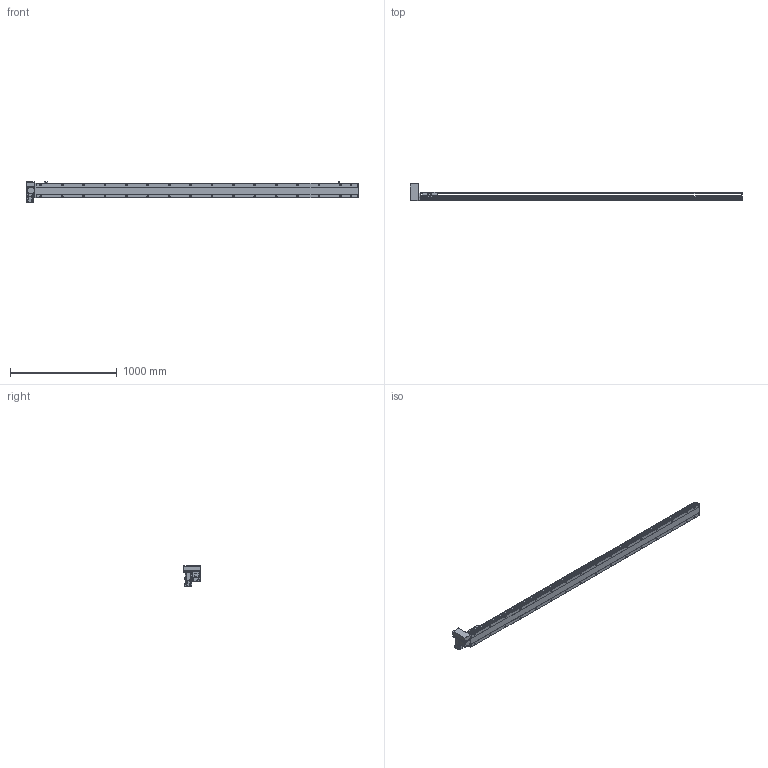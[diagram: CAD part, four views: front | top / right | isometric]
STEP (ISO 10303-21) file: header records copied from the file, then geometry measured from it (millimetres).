
FILE_DESCRIPTION( ( 'STEP AP214' ), '1' );
FILE_NAME( 'x:/temp/worker_3/temp/exporttempdir_5796_27_joOHi/format_0/PBS140-P40-S2750-RU-T40-C1-N(0).stp', '2022-06-07T05:57:13', ( 'License CC BY-ND 4.0' ), ( 'CADENAS' ), ' ', 'PARTsolutions', ' ' );
FILE_SCHEMA( ( 'AUTOMOTIVE_DESIGN { 1 0 10303 214 1 1 1 1 }' ) );
Length unit declared in the file: millimetre
Products named in the file (7): PBS140-P40-S2750-RU-T40-C1-N(0); _PBS140-S2750()_body; _PBS140T-RU_motors; _T40-p1; _PBS140_sliser; _PBS140_plant; _PBS140_sensor
Assembly tree (8 placements, depth 2):
  PBS140-P40-S2750-RU-T40-C1-N(0)
    _PBS140-S2750()_body
    _PBS140T-RU_motors
    _T40-p1
    _PBS140_sliser
    _PBS140_plant
    _PBS140_sensor  x3
Bounding box: 3104 x 162.5 x 189.7 mm (x, y, z)
Volume: 13847803.3 mm3; surface area: 2353684.4 mm2
Topology: 8 solids, 8 shells, 1203 faces, 3156 edges, 2061 vertices
Faces by surface type: plane 740, cylinder 395, cone 58, sphere 8, torus 2
Full cylindrical faces by diameter (mm): 3.242 x4, 4 x2, 4.134 x4, 4.4 x8, 4.5 x2, 4.8 x4, 4.917 x40, 5.5 x7, 6 x2, 7 x34, 7.5 x8, 8 x12, 8.5 x4, 10.5 x32, 14 x1, 30 x2, 50 x2
Entity records: 44425 total; most frequent: CARTESIAN_POINT 7595, DIRECTION 5757, ORIENTED_EDGE 5392, EDGE_CURVE 2696, AXIS2_PLACEMENT_3D 2047, VERTEX_POINT 1893, LINE 1663, VECTOR 1663
